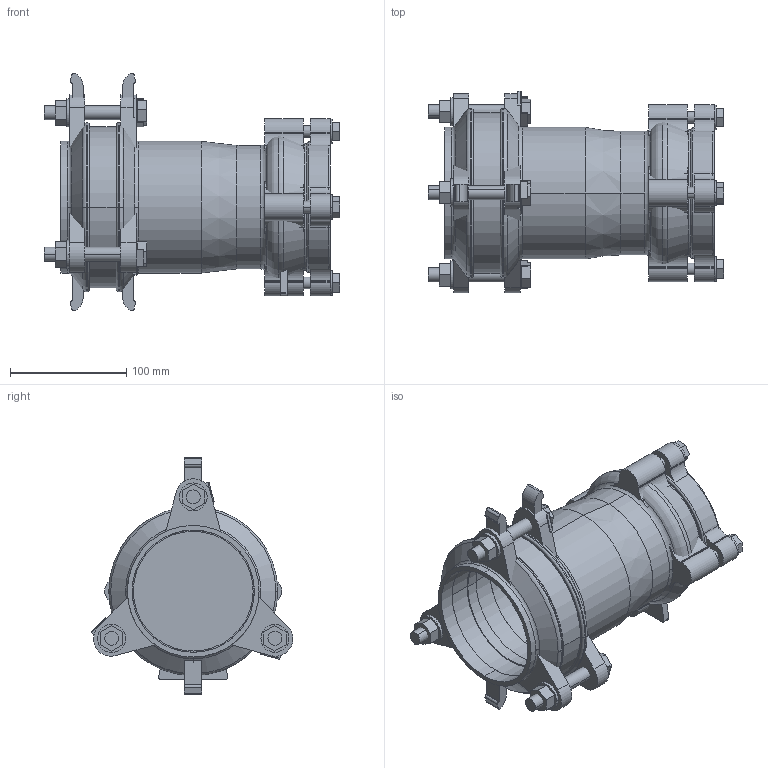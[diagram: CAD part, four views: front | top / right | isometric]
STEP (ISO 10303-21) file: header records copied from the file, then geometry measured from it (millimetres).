
FILE_DESCRIPTION(('STEP AP214'),'1');
FILE_NAME('MJB00039 DN80-PE90.STP','2015-02-06T10:47:11',(' '),(' '),'Spatial InterOp 3D',' ',' ');
FILE_SCHEMA(('automotive_design'));
Length unit declared in the file: millimetre
Products named in the file (56): 3D-Objekt
Bounding box: 254 x 173.26 x 204 mm (x, y, z)
Volume: 1313486.3 mm3; surface area: 363093.1 mm2
Topology: 56 solids, 56 shells, 461 faces, 1041 edges, 692 vertices
Faces by surface type: plane 265, cylinder 158, torus 24, cone 14
Entity records: 17999 total; most frequent: DIRECTION 2485, CARTESIAN_POINT 2250, ORIENTED_EDGE 2082, EDGE_CURVE 1041, AXIS2_PLACEMENT_3D 927, VERTEX_POINT 692, LINE 631, VECTOR 631
